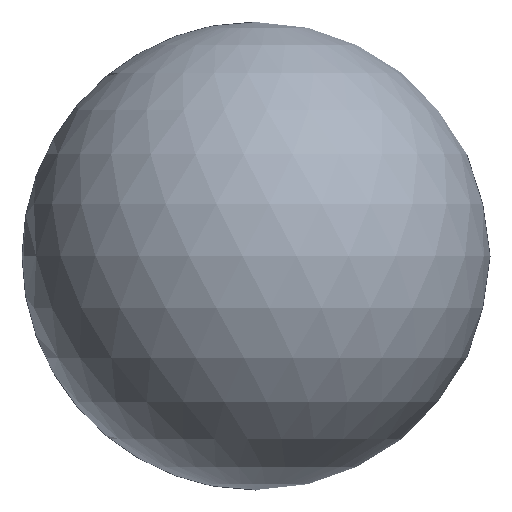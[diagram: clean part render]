
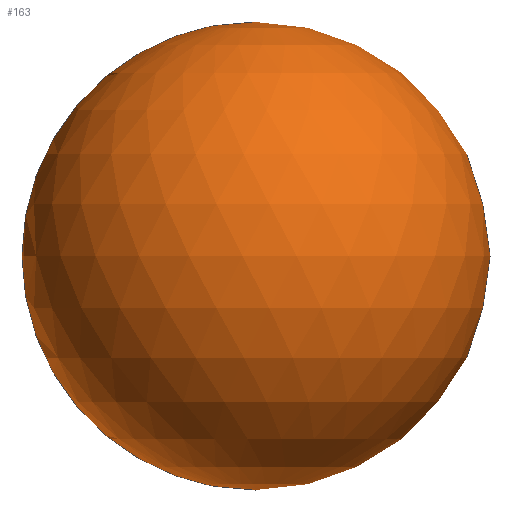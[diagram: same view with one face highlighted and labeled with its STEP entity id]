
A CAD part, front view. The second image highlights one B-rep face of the part: STEP entity #163.
In plain terms, the highlighted spherical face has radius 600 mm.
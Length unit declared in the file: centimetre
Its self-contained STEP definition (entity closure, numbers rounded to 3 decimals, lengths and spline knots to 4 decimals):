
#25=SPHERICAL_SURFACE('',#202,60.);
#42=FACE_OUTER_BOUND('',#55,.T.);
#55=EDGE_LOOP('',(#123,#124));
#71=CIRCLE('',#203,60.);
#84=VERTEX_POINT('',#292);
#85=VERTEX_POINT('',#293);
#99=EDGE_CURVE('',#84,#85,#71,.T.);
#123=ORIENTED_EDGE('',*,*,#99,.T.);
#124=ORIENTED_EDGE('',*,*,#99,.F.);
#163=ADVANCED_FACE('',(#42),#25,.T.);
#202=AXIS2_PLACEMENT_3D('',#291,#240,#241);
#203=AXIS2_PLACEMENT_3D('',#294,#242,#243);
#240=DIRECTION('center_axis',(0.,0.,1.));
#241=DIRECTION('ref_axis',(1.,0.,0.));
#242=DIRECTION('center_axis',(0.,-1.,0.));
#243=DIRECTION('ref_axis',(-1.,0.,0.));
#291=CARTESIAN_POINT('Origin',(0.,0.,0.));
#292=CARTESIAN_POINT('',(0.,0.,60.));
#293=CARTESIAN_POINT('',(0.,0.,-60.));
#294=CARTESIAN_POINT('Origin',(0.,0.,0.));
